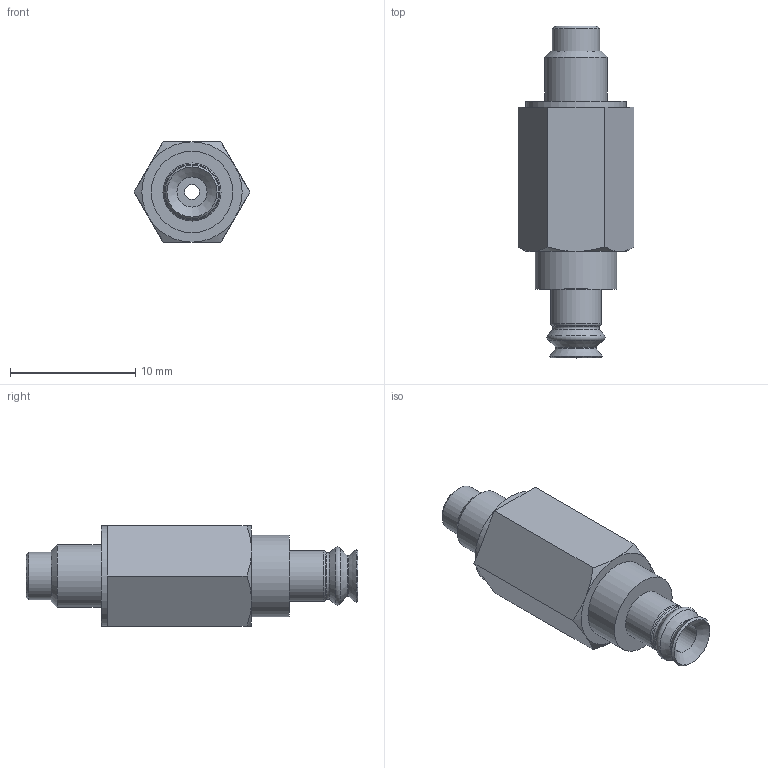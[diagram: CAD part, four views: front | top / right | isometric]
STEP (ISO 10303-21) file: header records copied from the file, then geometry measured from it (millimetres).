
FILE_DESCRIPTION(('STEP AP203'),'1');
FILE_NAME('.stp','2025-04-23T03:19:00',(' '),(' '),'Spatial InterOp 3D',' ',' ');
FILE_SCHEMA(('CONFIG_CONTROL_DESIGN'));
Length unit declared in the file: millimetre
Products named in the file (4): BPSS-S3-BPJG-4-※; PSS-S3-PFG-1.5A M body; PSS-S3-PFG-1.5A F body; BPJG-4-※
Assembly tree (3 placements, depth 2):
  BPSS-S3-BPJG-4-※
    PSS-S3-PFG-1.5A M body
    PSS-S3-PFG-1.5A F body
    BPJG-4-※
Bounding box: 9.24 x 26.5 x 8 mm (x, y, z)
Volume: 740.8 mm3; surface area: 1295.2 mm2
Topology: 3 solids, 3 shells, 65 faces, 130 edges, 78 vertices
Faces by surface type: plane 25, cylinder 15, cone 15, torus 10
Full cylindrical faces by diameter (mm): 1.2 x1, 2 x2, 2.4 x1, 2.5 x2, 3 x2, 3.5 x1, 3.8 x1, 4 x1, 5 x1, 6.5 x2, 8 x1
Entity records: 1644 total; most frequent: DIRECTION 272, CARTESIAN_POINT 251, ORIENTED_EDGE 176, AXIS2_PLACEMENT_3D 127, EDGE_LOOP 112, FACE_OUTER_BOUND 90, EDGE_CURVE 88, VERTEX_POINT 70
